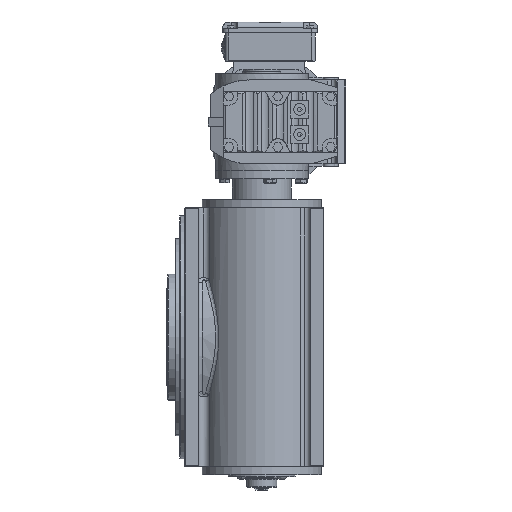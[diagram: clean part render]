
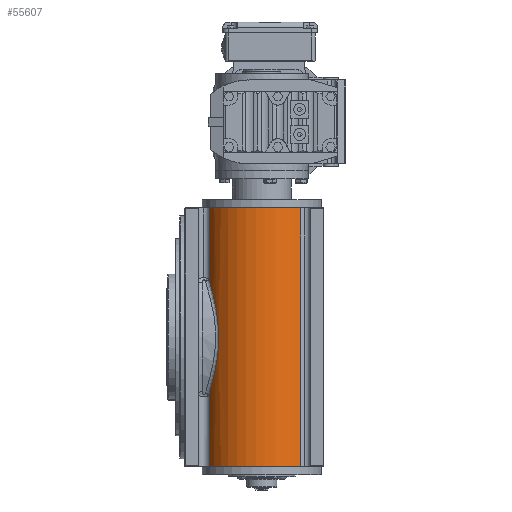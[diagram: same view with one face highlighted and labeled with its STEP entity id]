
A CAD part, left-side view. The second image highlights one B-rep face of the part: STEP entity #55607.
In plain terms, the highlighted cylindrical face has radius 71 mm (diameter 142 mm), a partial arc.
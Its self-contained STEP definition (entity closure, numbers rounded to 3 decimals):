
#1019 = CARTESIAN_POINT ( 'NONE',  ( -95., 74., -154. ) ) ;
#2114 = CIRCLE ( 'NONE', #80899, 71. ) ;
#2747 = CARTESIAN_POINT ( 'NONE',  ( -143.967, 125.413, 5.846 ) ) ;
#3161 = CARTESIAN_POINT ( 'NONE',  ( -128.109, 136.808, 154. ) ) ;
#3226 = CARTESIAN_POINT ( 'NONE',  ( -143.692, 125.681, -12.164 ) ) ;
#4622 = CARTESIAN_POINT ( 'NONE',  ( -130.725, 135.429, 63.555 ) ) ;
#4861 = EDGE_CURVE ( 'NONE', #60507, #34313, #37563, .T. ) ;
#5276 = DIRECTION ( 'NONE',  ( 0., 0., 1. ) ) ;
#5733 = CARTESIAN_POINT ( 'NONE',  ( -95., 74., 154. ) ) ;
#6619 = ORIENTED_EDGE ( 'NONE', *, *, #4861, .T. ) ;
#7325 = LINE ( 'NONE', #65724, #86509 ) ;
#8666 = ORIENTED_EDGE ( 'NONE', *, *, #50058, .F. ) ;
#9920 = CARTESIAN_POINT ( 'NONE',  ( -128.109, 136.808, 68.859 ) ) ;
#11314 = CARTESIAN_POINT ( 'NONE',  ( -135.5, 132.319, 51.157 ) ) ;
#11488 = DIRECTION ( 'NONE',  ( 1., 0., 0. ) ) ;
#12792 = CARTESIAN_POINT ( 'NONE',  ( -128.109, 136.808, -500000. ) ) ;
#17455 = CARTESIAN_POINT ( 'NONE',  ( -144.04, 125.343, -6.17 ) ) ;
#18272 = CIRCLE ( 'NONE', #39564, 71. ) ;
#18359 = CARTESIAN_POINT ( 'NONE',  ( -143.607, 125.753, 11.865 ) ) ;
#18827 = CARTESIAN_POINT ( 'NONE',  ( -128.109, 136.808, -68.859 ) ) ;
#19309 = CARTESIAN_POINT ( 'NONE',  ( -128.109, 136.808, -68.859 ) ) ;
#22287 = VERTEX_POINT ( 'NONE', #73688 ) ;
#23201 = CARTESIAN_POINT ( 'NONE',  ( -128.109, 136.808, -154. ) ) ;
#24559 = CARTESIAN_POINT ( 'NONE',  ( -143.351, 125.993, 14.878 ) ) ;
#25123 = ORIENTED_EDGE ( 'NONE', *, *, #27475, .T. ) ;
#25955 = CARTESIAN_POINT ( 'NONE',  ( -136.93, 131.346, -47.157 ) ) ;
#26427 = CARTESIAN_POINT ( 'NONE',  ( -141.327, 127.831, 29.758 ) ) ;
#26519 = DIRECTION ( 'NONE',  ( 0., 0., 1. ) ) ;
#27475 = EDGE_CURVE ( 'NONE', #75511, #60507, #2114, .T. ) ;
#33078 = CARTESIAN_POINT ( 'NONE',  ( -133.018, 134.012, 58.125 ) ) ;
#34313 = VERTEX_POINT ( 'NONE', #65573 ) ;
#35561 = LINE ( 'NONE', #12792, #51573 ) ;
#37563 = LINE ( 'NONE', #70903, #45211 ) ;
#38863 = CARTESIAN_POINT ( 'NONE',  ( -141.192, 127.924, -30.015 ) ) ;
#39034 = VERTEX_POINT ( 'NONE', #3161 ) ;
#39035 = ORIENTED_EDGE ( 'NONE', *, *, #79376, .T. ) ;
#39564 = AXIS2_PLACEMENT_3D ( 'NONE', #5733, #5276, #11488 ) ;
#40272 = CARTESIAN_POINT ( 'NONE',  ( -142.631, 126.653, -21.138 ) ) ;
#42331 = FACE_OUTER_BOUND ( 'NONE', #87133, .T. ) ;
#44724 = DIRECTION ( 'NONE',  ( 1., 0., 0. ) ) ;
#45211 = VECTOR ( 'NONE', #86891, 1000. ) ;
#46043 = CARTESIAN_POINT ( 'NONE',  ( -135.977, 131.984, 49.755 ) ) ;
#46502 = CARTESIAN_POINT ( 'NONE',  ( -140.598, 128.429, -32.922 ) ) ;
#46953 = CARTESIAN_POINT ( 'NONE',  ( -137.325, 131.008, 45.529 ) ) ;
#47074 = AXIS2_PLACEMENT_3D ( 'NONE', #62756, #47632, #56578 ) ;
#47435 = CARTESIAN_POINT ( 'NONE',  ( -142.826, 126.476, -19.641 ) ) ;
#47632 = DIRECTION ( 'NONE',  ( 0., 0., 1. ) ) ;
#50058 = EDGE_CURVE ( 'NONE', #22287, #39034, #35561, .T. ) ;
#50957 = EDGE_CURVE ( 'NONE', #22287, #85561, #67432, .T. ) ;
#51573 = VECTOR ( 'NONE', #26519, 1000. ) ;
#51860 = DIRECTION ( 'NONE',  ( 0., 0., 1. ) ) ;
#55023 = CARTESIAN_POINT ( 'NONE',  ( -132.999, 134.023, -58.167 ) ) ;
#55209 = CYLINDRICAL_SURFACE ( 'NONE', #47074, 71. ) ;
#55471 = CARTESIAN_POINT ( 'NONE',  ( -141.962, 127.251, -25.6 ) ) ;
#55607 = ADVANCED_FACE ( 'NONE', ( #42331 ), #55209, .T. ) ;
#56578 = DIRECTION ( 'NONE',  ( 1., 0., 0. ) ) ;
#60507 = VERTEX_POINT ( 'NONE', #73475 ) ;
#61173 = CARTESIAN_POINT ( 'NONE',  ( -143.2, 126.132, 16.387 ) ) ;
#61629 = CARTESIAN_POINT ( 'NONE',  ( -139.32, 129.475, 38.415 ) ) ;
#62756 = CARTESIAN_POINT ( 'NONE',  ( -95., 74., -154. ) ) ;
#65573 = CARTESIAN_POINT ( 'NONE',  ( -148.721, 27.577, 154. ) ) ;
#65724 = CARTESIAN_POINT ( 'NONE',  ( -128.109, 136.808, 500000. ) ) ;
#66858 = ORIENTED_EDGE ( 'NONE', *, *, #50957, .T. ) ;
#67432 = B_SPLINE_CURVE_WITH_KNOTS ( 'NONE', 3,
 ( #9920, #4622, #33078, #11314, #46043, #89562, #46953, #68246, #61629, #26427, #83374, #61173, #24559, #18359, #90501, #2747, #75819, #17455, #3226, #47435, #40272, #69201, #55471, #38863, #46502, #90970, #25955, #55023, #83850, #18827 ),
 .UNSPECIFIED., .F., .F.,
 ( 4, 2, 2, 2, 2, 2, 2, 2, 2, 2, 2, 2, 2, 2, 4 ),
 ( 0., 0.018, 0.023, 0.027, 0.036, 0.055, 0.059, 0.064, 0.073, 0.091, 0.095, 0.1, 0.109, 0.127, 0.145 ),
 .UNSPECIFIED. ) ;
#68246 = CARTESIAN_POINT ( 'NONE',  ( -138.57, 130.069, 41.275 ) ) ;
#69201 = CARTESIAN_POINT ( 'NONE',  ( -142.199, 127.041, -24.119 ) ) ;
#70903 = CARTESIAN_POINT ( 'NONE',  ( -148.721, 27.577, -154. ) ) ;
#73384 = ORIENTED_EDGE ( 'NONE', *, *, #90031, .F. ) ;
#73475 = CARTESIAN_POINT ( 'NONE',  ( -148.721, 27.577, -154. ) ) ;
#73688 = CARTESIAN_POINT ( 'NONE',  ( -128.109, 136.808, 68.859 ) ) ;
#73783 = DIRECTION ( 'NONE',  ( 0., 0., -1. ) ) ;
#75511 = VERTEX_POINT ( 'NONE', #23201 ) ;
#75819 = CARTESIAN_POINT ( 'NONE',  ( -144.049, 125.334, 2.839 ) ) ;
#79376 = EDGE_CURVE ( 'NONE', #85561, #75511, #7325, .T. ) ;
#80899 = AXIS2_PLACEMENT_3D ( 'NONE', #1019, #51860, #44724 ) ;
#83374 = CARTESIAN_POINT ( 'NONE',  ( -142.345, 126.918, 23.884 ) ) ;
#83850 = CARTESIAN_POINT ( 'NONE',  ( -130.722, 135.43, -63.561 ) ) ;
#85561 = VERTEX_POINT ( 'NONE', #19309 ) ;
#86509 = VECTOR ( 'NONE', #73783, 1000. ) ;
#86891 = DIRECTION ( 'NONE',  ( 0., 0., 1. ) ) ;
#87133 = EDGE_LOOP ( 'NONE', ( #8666, #66858, #39035, #25123, #6619, #73384 ) ) ;
#89562 = CARTESIAN_POINT ( 'NONE',  ( -136.889, 131.329, 46.942 ) ) ;
#90031 = EDGE_CURVE ( 'NONE', #39034, #34313, #18272, .T. ) ;
#90501 = CARTESIAN_POINT ( 'NONE',  ( -143.713, 125.653, 10.36 ) ) ;
#90970 = CARTESIAN_POINT ( 'NONE',  ( -138.584, 130.076, -41.542 ) ) ;
